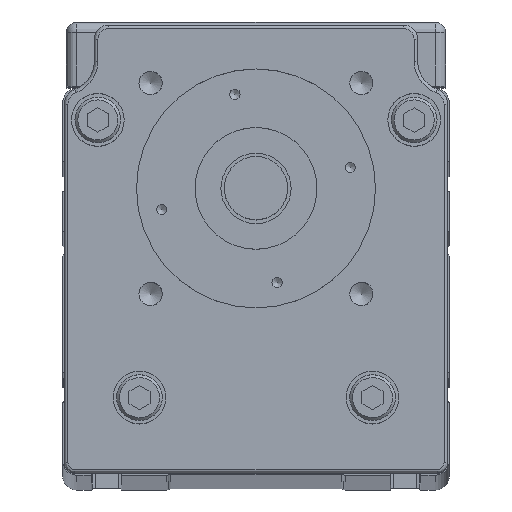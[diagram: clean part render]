
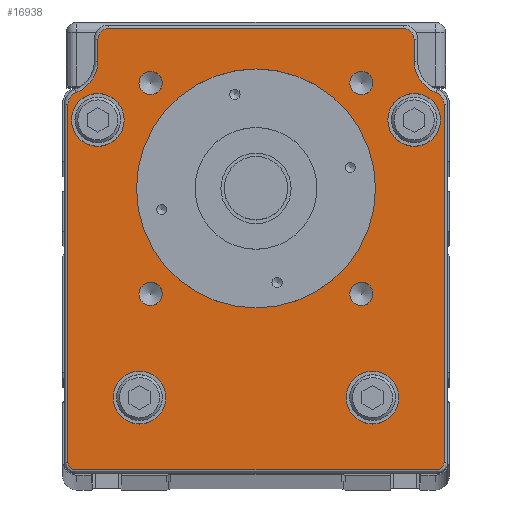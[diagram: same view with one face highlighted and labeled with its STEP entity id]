
A CAD part, top view. The second image highlights one B-rep face of the part: STEP entity #16938.
In plain terms, the highlighted planar face has unit normal (0, 0, 1) as drawn and (-1, 0, 0) by its records, which use the part's own axes.
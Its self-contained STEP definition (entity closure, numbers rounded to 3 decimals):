
#431=CIRCLE('',#17735,34.);
#432=CIRCLE('',#17736,2.);
#433=CIRCLE('',#17737,2.);
#434=CIRCLE('',#17738,3.5);
#435=CIRCLE('',#17739,9.5);
#436=CIRCLE('',#17740,3.);
#437=CIRCLE('',#17741,3.);
#438=CIRCLE('',#17742,9.5);
#439=CIRCLE('',#17743,3.5);
#440=CIRCLE('',#17744,7.5);
#441=CIRCLE('',#17745,7.5);
#442=CIRCLE('',#17746,7.5);
#443=CIRCLE('',#17747,7.5);
#444=CIRCLE('',#17748,3.324);
#445=CIRCLE('',#17749,3.324);
#446=CIRCLE('',#17750,3.324);
#447=CIRCLE('',#17751,3.324);
#1077=ORIENTED_EDGE('',*,*,#4365,.F.);
#1078=ORIENTED_EDGE('',*,*,#4366,.T.);
#1079=ORIENTED_EDGE('',*,*,#4367,.T.);
#1080=ORIENTED_EDGE('',*,*,#4368,.T.);
#1081=ORIENTED_EDGE('',*,*,#4369,.T.);
#1082=ORIENTED_EDGE('',*,*,#4370,.T.);
#1083=ORIENTED_EDGE('',*,*,#4371,.T.);
#1084=ORIENTED_EDGE('',*,*,#4372,.T.);
#1085=ORIENTED_EDGE('',*,*,#4373,.T.);
#1086=ORIENTED_EDGE('',*,*,#4374,.T.);
#1087=ORIENTED_EDGE('',*,*,#4375,.T.);
#1088=ORIENTED_EDGE('',*,*,#4376,.T.);
#1089=ORIENTED_EDGE('',*,*,#4377,.T.);
#1090=ORIENTED_EDGE('',*,*,#4378,.T.);
#1091=ORIENTED_EDGE('',*,*,#4379,.T.);
#1092=ORIENTED_EDGE('',*,*,#4380,.T.);
#1093=ORIENTED_EDGE('',*,*,#4381,.T.);
#1094=ORIENTED_EDGE('',*,*,#4382,.T.);
#1095=ORIENTED_EDGE('',*,*,#4383,.T.);
#1096=ORIENTED_EDGE('',*,*,#4384,.T.);
#1097=ORIENTED_EDGE('',*,*,#4385,.T.);
#1098=ORIENTED_EDGE('',*,*,#4386,.T.);
#1099=ORIENTED_EDGE('',*,*,#4387,.T.);
#4365=EDGE_CURVE('',#6002,#6002,#431,.F.);
#4366=EDGE_CURVE('',#6003,#6004,#7176,.F.);
#4367=EDGE_CURVE('',#6004,#6005,#432,.F.);
#4368=EDGE_CURVE('',#6005,#6006,#7177,.F.);
#4369=EDGE_CURVE('',#6006,#6007,#433,.F.);
#4370=EDGE_CURVE('',#6007,#6008,#7178,.F.);
#4371=EDGE_CURVE('',#6008,#6009,#434,.F.);
#4372=EDGE_CURVE('',#6009,#6010,#435,.T.);
#4373=EDGE_CURVE('',#6010,#6011,#7179,.F.);
#4374=EDGE_CURVE('',#6011,#6012,#436,.F.);
#4375=EDGE_CURVE('',#6012,#6013,#7180,.F.);
#4376=EDGE_CURVE('',#6013,#6014,#437,.F.);
#4377=EDGE_CURVE('',#6014,#6015,#7181,.F.);
#4378=EDGE_CURVE('',#6015,#6016,#438,.T.);
#4379=EDGE_CURVE('',#6016,#6003,#439,.F.);
#4380=EDGE_CURVE('',#6017,#6017,#440,.T.);
#4381=EDGE_CURVE('',#6018,#6018,#441,.T.);
#4382=EDGE_CURVE('',#6019,#6019,#442,.T.);
#4383=EDGE_CURVE('',#6020,#6020,#443,.T.);
#4384=EDGE_CURVE('',#6021,#6021,#444,.T.);
#4385=EDGE_CURVE('',#6022,#6022,#445,.T.);
#4386=EDGE_CURVE('',#6023,#6023,#446,.T.);
#4387=EDGE_CURVE('',#6024,#6024,#447,.T.);
#6002=VERTEX_POINT('',#22918);
#6003=VERTEX_POINT('',#22920);
#6004=VERTEX_POINT('',#22921);
#6005=VERTEX_POINT('',#22923);
#6006=VERTEX_POINT('',#22925);
#6007=VERTEX_POINT('',#22927);
#6008=VERTEX_POINT('',#22929);
#6009=VERTEX_POINT('',#22931);
#6010=VERTEX_POINT('',#22933);
#6011=VERTEX_POINT('',#22935);
#6012=VERTEX_POINT('',#22937);
#6013=VERTEX_POINT('',#22939);
#6014=VERTEX_POINT('',#22941);
#6015=VERTEX_POINT('',#22943);
#6016=VERTEX_POINT('',#22945);
#6017=VERTEX_POINT('',#22948);
#6018=VERTEX_POINT('',#22950);
#6019=VERTEX_POINT('',#22952);
#6020=VERTEX_POINT('',#22954);
#6021=VERTEX_POINT('',#22956);
#6022=VERTEX_POINT('',#22958);
#6023=VERTEX_POINT('',#22960);
#6024=VERTEX_POINT('',#22962);
#7176=LINE('',#22919,#8263);
#7177=LINE('',#22924,#8264);
#7178=LINE('',#22928,#8265);
#7179=LINE('',#22934,#8266);
#7180=LINE('',#22938,#8267);
#7181=LINE('',#22942,#8268);
#8263=VECTOR('',#19170,1000.);
#8264=VECTOR('',#19173,1000.);
#8265=VECTOR('',#19176,1000.);
#8266=VECTOR('',#19181,1000.);
#8267=VECTOR('',#19184,1000.);
#8268=VECTOR('',#19187,1000.);
#9306=EDGE_LOOP('',(#1077));
#9307=EDGE_LOOP('',(#1078,#1079,#1080,#1081,#1082,#1083,#1084,#1085,#1086,
#1087,#1088,#1089,#1090,#1091));
#9308=EDGE_LOOP('',(#1092));
#9309=EDGE_LOOP('',(#1093));
#9310=EDGE_LOOP('',(#1094));
#9311=EDGE_LOOP('',(#1095));
#9312=EDGE_LOOP('',(#1096));
#9313=EDGE_LOOP('',(#1097));
#9314=EDGE_LOOP('',(#1098));
#9315=EDGE_LOOP('',(#1099));
#10305=FACE_BOUND('',#9306,.T.);
#10306=FACE_BOUND('',#9307,.T.);
#10307=FACE_BOUND('',#9308,.T.);
#10308=FACE_BOUND('',#9309,.T.);
#10309=FACE_BOUND('',#9310,.T.);
#10310=FACE_BOUND('',#9311,.T.);
#10311=FACE_BOUND('',#9312,.T.);
#10312=FACE_BOUND('',#9313,.T.);
#10313=FACE_BOUND('',#9314,.T.);
#10314=FACE_BOUND('',#9315,.T.);
#11312=PLANE('',#17734);
#16938=ADVANCED_FACE('',(#10305,#10306,#10307,#10308,#10309,#10310,#10311,
#10312,#10313,#10314),#11312,.F.);
#17734=AXIS2_PLACEMENT_3D('',#22916,#19166,#19167);
#17735=AXIS2_PLACEMENT_3D('',#22917,#19168,#19169);
#17736=AXIS2_PLACEMENT_3D('',#22922,#19171,#19172);
#17737=AXIS2_PLACEMENT_3D('',#22926,#19174,#19175);
#17738=AXIS2_PLACEMENT_3D('',#22930,#19177,#19178);
#17739=AXIS2_PLACEMENT_3D('',#22932,#19179,#19180);
#17740=AXIS2_PLACEMENT_3D('',#22936,#19182,#19183);
#17741=AXIS2_PLACEMENT_3D('',#22940,#19185,#19186);
#17742=AXIS2_PLACEMENT_3D('',#22944,#19188,#19189);
#17743=AXIS2_PLACEMENT_3D('',#22946,#19190,#19191);
#17744=AXIS2_PLACEMENT_3D('',#22947,#19192,#19193);
#17745=AXIS2_PLACEMENT_3D('',#22949,#19194,#19195);
#17746=AXIS2_PLACEMENT_3D('',#22951,#19196,#19197);
#17747=AXIS2_PLACEMENT_3D('',#22953,#19198,#19199);
#17748=AXIS2_PLACEMENT_3D('',#22955,#19200,#19201);
#17749=AXIS2_PLACEMENT_3D('',#22957,#19202,#19203);
#17750=AXIS2_PLACEMENT_3D('',#22959,#19204,#19205);
#17751=AXIS2_PLACEMENT_3D('',#22961,#19206,#19207);
#19166=DIRECTION('',(1.,0.,0.));
#19167=DIRECTION('',(0.,0.,-1.));
#19168=DIRECTION('',(1.,0.,0.));
#19169=DIRECTION('',(0.,0.,-1.));
#19170=DIRECTION('',(0.,1.,0.));
#19171=DIRECTION('',(1.,0.,0.));
#19172=DIRECTION('',(0.,0.,-1.));
#19173=DIRECTION('',(0.,0.,-1.));
#19174=DIRECTION('',(1.,0.,0.));
#19175=DIRECTION('',(0.,0.,-1.));
#19176=DIRECTION('',(0.,-1.,0.));
#19177=DIRECTION('',(1.,0.,0.));
#19178=DIRECTION('',(0.,0.,-1.));
#19179=DIRECTION('',(1.,0.,0.));
#19180=DIRECTION('',(0.,0.,-1.));
#19181=DIRECTION('',(0.,-1.,0.));
#19182=DIRECTION('',(1.,0.,0.));
#19183=DIRECTION('',(0.,0.,-1.));
#19184=DIRECTION('',(0.,0.,1.));
#19185=DIRECTION('',(1.,0.,0.));
#19186=DIRECTION('',(0.,0.,-1.));
#19187=DIRECTION('',(0.,1.,0.));
#19188=DIRECTION('',(1.,0.,0.));
#19189=DIRECTION('',(0.,0.,-1.));
#19190=DIRECTION('',(1.,0.,0.));
#19191=DIRECTION('',(0.,0.,-1.));
#19192=DIRECTION('',(1.,0.,0.));
#19193=DIRECTION('',(0.,0.,-1.));
#19194=DIRECTION('',(1.,0.,0.));
#19195=DIRECTION('',(0.,0.,-1.));
#19196=DIRECTION('',(1.,0.,0.));
#19197=DIRECTION('',(0.,0.,-1.));
#19198=DIRECTION('',(1.,0.,0.));
#19199=DIRECTION('',(0.,0.,-1.));
#19200=DIRECTION('',(1.,0.,0.));
#19201=DIRECTION('',(0.,0.,-1.));
#19202=DIRECTION('',(1.,0.,0.));
#19203=DIRECTION('',(0.,0.,-1.));
#19204=DIRECTION('',(1.,0.,0.));
#19205=DIRECTION('',(0.,0.,-1.));
#19206=DIRECTION('',(1.,0.,0.));
#19207=DIRECTION('',(0.,0.,-1.));
#22916=CARTESIAN_POINT('',(-45.,41.25,50.));
#22917=CARTESIAN_POINT('',(-45.,17.25,0.));
#22918=CARTESIAN_POINT('',(-45.,17.25,-34.));
#22919=CARTESIAN_POINT('',(-45.,-60.75,-53.5));
#22920=CARTESIAN_POINT('',(-45.,41.25,-53.5));
#22921=CARTESIAN_POINT('',(-45.,-60.75,-53.5));
#22922=CARTESIAN_POINT('',(-45.,-60.75,-51.5));
#22923=CARTESIAN_POINT('',(-45.,-62.75,-51.5));
#22924=CARTESIAN_POINT('',(-45.,-62.75,51.5));
#22925=CARTESIAN_POINT('',(-45.,-62.75,51.5));
#22926=CARTESIAN_POINT('',(-45.,-60.75,51.5));
#22927=CARTESIAN_POINT('',(-45.,-60.75,53.5));
#22928=CARTESIAN_POINT('',(-45.,41.25,53.5));
#22929=CARTESIAN_POINT('',(-45.,41.25,53.5));
#22930=CARTESIAN_POINT('',(-45.,41.25,50.));
#22931=CARTESIAN_POINT('',(-45.,44.52,51.248));
#22932=CARTESIAN_POINT('',(-45.,53.446,54.5));
#22933=CARTESIAN_POINT('',(-45.,53.446,45.));
#22934=CARTESIAN_POINT('',(-45.,59.75,45.));
#22935=CARTESIAN_POINT('',(-45.,59.75,45.));
#22936=CARTESIAN_POINT('',(-45.,59.75,42.));
#22937=CARTESIAN_POINT('',(-45.,62.75,42.));
#22938=CARTESIAN_POINT('',(-45.,62.75,-42.));
#22939=CARTESIAN_POINT('',(-45.,62.75,-42.));
#22940=CARTESIAN_POINT('',(-45.,59.75,-42.));
#22941=CARTESIAN_POINT('',(-45.,59.75,-45.));
#22942=CARTESIAN_POINT('',(-45.,53.446,-45.));
#22943=CARTESIAN_POINT('',(-45.,53.446,-45.));
#22944=CARTESIAN_POINT('',(-45.,53.446,-54.5));
#22945=CARTESIAN_POINT('',(-45.,44.52,-51.248));
#22946=CARTESIAN_POINT('',(-45.,41.25,-50.));
#22947=CARTESIAN_POINT('',(-45.,-42.25,-33.15));
#22948=CARTESIAN_POINT('',(-45.,-42.25,-40.65));
#22949=CARTESIAN_POINT('',(-45.,-42.25,33.15));
#22950=CARTESIAN_POINT('',(-45.,-42.25,25.65));
#22951=CARTESIAN_POINT('',(-45.,36.75,45.));
#22952=CARTESIAN_POINT('',(-45.,36.75,37.5));
#22953=CARTESIAN_POINT('',(-45.,36.75,-45.));
#22954=CARTESIAN_POINT('',(-45.,36.75,-52.5));
#22955=CARTESIAN_POINT('',(-45.,47.25,-30.));
#22956=CARTESIAN_POINT('',(-45.,47.25,-33.324));
#22957=CARTESIAN_POINT('',(-45.,47.25,30.));
#22958=CARTESIAN_POINT('',(-45.,47.25,26.677));
#22959=CARTESIAN_POINT('',(-45.,-12.75,30.));
#22960=CARTESIAN_POINT('',(-45.,-12.75,26.677));
#22961=CARTESIAN_POINT('',(-45.,-12.75,-30.));
#22962=CARTESIAN_POINT('',(-45.,-12.75,-33.324));
